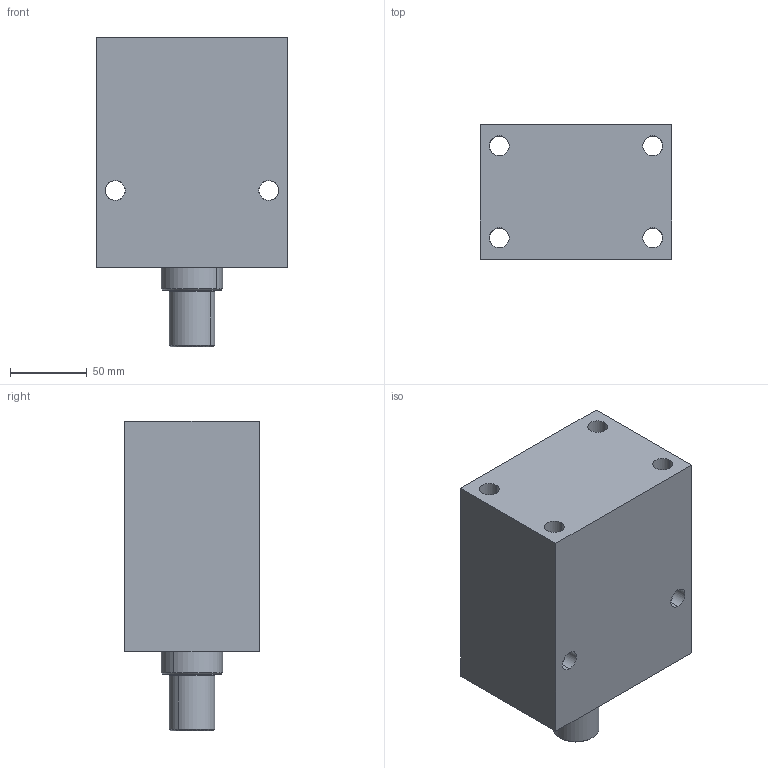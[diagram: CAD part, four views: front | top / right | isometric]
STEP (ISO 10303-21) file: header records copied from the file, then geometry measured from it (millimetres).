
FILE_DESCRIPTION (( 'STEP AP203' ), '1' );
FILE_NAME ('Block cylinder B01C-675M.STEP', '2022-07-09T18:15:40', ( '' ), ( '' ), 'SwSTEP 2.0', 'SolidWorks 2017', '' );
FILE_SCHEMA (( 'CONFIG_CONTROL_DESIGN' ));
Length unit declared in the file: millimetre
Products named in the file (3): Body_ 675M_50ST; Piston _ 675M; Block cylinder B01C-675M
Assembly tree (2 placements, depth 2):
  Block cylinder B01C-675M
    Body_ 675M_50ST
    Piston _ 675M
Bounding box: 125 x 88 x 202 mm (x, y, z)
Volume: 1734499.5 mm3; surface area: 145421.7 mm2
Topology: 2 solids, 2 shells, 347 faces, 943 edges, 616 vertices
Faces by surface type: bspline 147, plane 146, cylinder 46, cone 8
Entity records: 17176 total; most frequent: CARTESIAN_POINT 9166, ORIENTED_EDGE 1878, DIRECTION 1087, EDGE_CURVE 939, VERTEX_POINT 616, VECTOR 549, LINE 549, EDGE_LOOP 387
